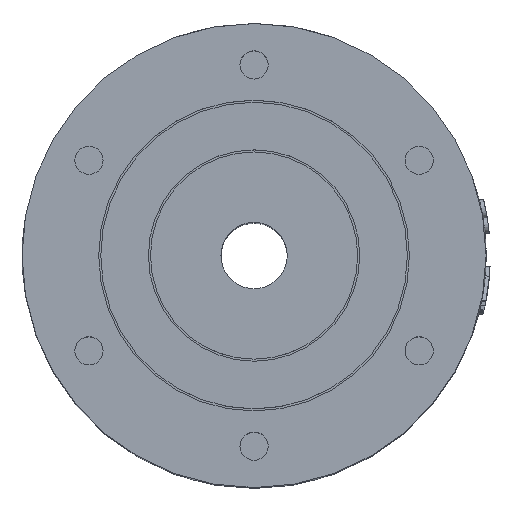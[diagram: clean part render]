
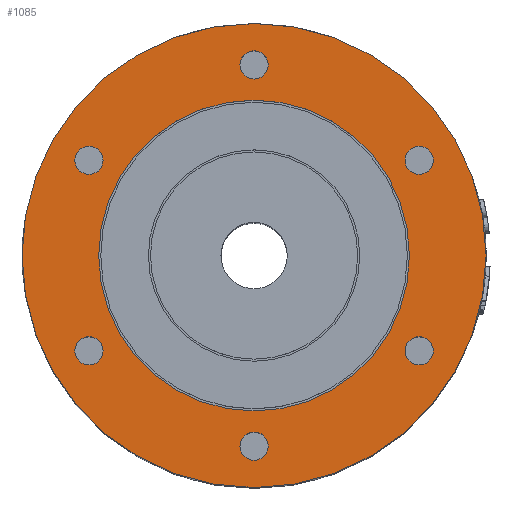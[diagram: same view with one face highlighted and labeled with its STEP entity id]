
A CAD part, top view. The second image highlights one B-rep face of the part: STEP entity #1085.
In plain terms, the highlighted planar face has unit normal (0, 0, 1).
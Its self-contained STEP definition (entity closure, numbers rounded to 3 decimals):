
#164=FACE_BOUND('',#2106,.T.);
#165=FACE_BOUND('',#2107,.T.);
#166=FACE_BOUND('',#2108,.T.);
#167=FACE_BOUND('',#2109,.T.);
#168=FACE_BOUND('',#2110,.T.);
#169=FACE_BOUND('',#2111,.T.);
#170=FACE_BOUND('',#2112,.T.);
#171=FACE_BOUND('',#2113,.T.);
#354=CIRCLE('',#6551,28.);
#358=CIRCLE('',#6558,18.75);
#359=CIRCLE('',#6559,1.7);
#360=CIRCLE('',#6560,1.7);
#361=CIRCLE('',#6561,1.7);
#362=CIRCLE('',#6562,1.7);
#363=CIRCLE('',#6563,1.7);
#364=CIRCLE('',#6564,1.7);
#672=PLANE('',#6565);
#1085=ADVANCED_FACE('',(#164,#165,#166,#167,#168,#169,#170,#171),#672,.F.);
#2106=EDGE_LOOP('',(#3580));
#2107=EDGE_LOOP('',(#3581));
#2108=EDGE_LOOP('',(#3582));
#2109=EDGE_LOOP('',(#3583));
#2110=EDGE_LOOP('',(#3584));
#2111=EDGE_LOOP('',(#3585));
#2112=EDGE_LOOP('',(#3586));
#2113=EDGE_LOOP('',(#3587));
#3580=ORIENTED_EDGE('',*,*,#5469,.T.);
#3581=ORIENTED_EDGE('',*,*,#5470,.T.);
#3582=ORIENTED_EDGE('',*,*,#5471,.T.);
#3583=ORIENTED_EDGE('',*,*,#5472,.T.);
#3584=ORIENTED_EDGE('',*,*,#5473,.T.);
#3585=ORIENTED_EDGE('',*,*,#5474,.T.);
#3586=ORIENTED_EDGE('',*,*,#5475,.T.);
#3587=ORIENTED_EDGE('',*,*,#5465,.F.);
#4599=VERTEX_POINT('',#26861);
#4603=VERTEX_POINT('',#26872);
#4604=VERTEX_POINT('',#26874);
#4605=VERTEX_POINT('',#26876);
#4606=VERTEX_POINT('',#26878);
#4607=VERTEX_POINT('',#26880);
#4608=VERTEX_POINT('',#26882);
#4609=VERTEX_POINT('',#26884);
#5465=EDGE_CURVE('',#4599,#4599,#354,.T.);
#5469=EDGE_CURVE('',#4603,#4603,#358,.T.);
#5470=EDGE_CURVE('',#4604,#4604,#359,.T.);
#5471=EDGE_CURVE('',#4605,#4605,#360,.T.);
#5472=EDGE_CURVE('',#4606,#4606,#361,.T.);
#5473=EDGE_CURVE('',#4607,#4607,#362,.T.);
#5474=EDGE_CURVE('',#4608,#4608,#363,.T.);
#5475=EDGE_CURVE('',#4609,#4609,#364,.T.);
#6551=AXIS2_PLACEMENT_3D('',#26860,#7484,#7485);
#6558=AXIS2_PLACEMENT_3D('',#26871,#7498,#7499);
#6559=AXIS2_PLACEMENT_3D('',#26873,#7500,#7501);
#6560=AXIS2_PLACEMENT_3D('',#26875,#7502,#7503);
#6561=AXIS2_PLACEMENT_3D('',#26877,#7504,#7505);
#6562=AXIS2_PLACEMENT_3D('',#26879,#7506,#7507);
#6563=AXIS2_PLACEMENT_3D('',#26881,#7508,#7509);
#6564=AXIS2_PLACEMENT_3D('',#26883,#7510,#7511);
#6565=AXIS2_PLACEMENT_3D('',#26885,#7512,#7513);
#7484=DIRECTION('',(0.,0.,-1.));
#7485=DIRECTION('',(-1.,0.,0.));
#7498=DIRECTION('',(0.,0.,-1.));
#7499=DIRECTION('',(-1.,0.,0.));
#7500=DIRECTION('',(0.,0.,-1.));
#7501=DIRECTION('',(-1.,0.,0.));
#7502=DIRECTION('',(0.,0.,-1.));
#7503=DIRECTION('',(-1.,0.,0.));
#7504=DIRECTION('',(0.,0.,-1.));
#7505=DIRECTION('',(-1.,0.,0.));
#7506=DIRECTION('',(0.,0.,-1.));
#7507=DIRECTION('',(-1.,0.,0.));
#7508=DIRECTION('',(0.,0.,-1.));
#7509=DIRECTION('',(-1.,0.,0.));
#7510=DIRECTION('',(0.,0.,-1.));
#7511=DIRECTION('',(-1.,0.,0.));
#7512=DIRECTION('',(0.,0.,-1.));
#7513=DIRECTION('',(1.,0.,0.));
#26860=CARTESIAN_POINT('',(0.,0.,62.));
#26861=CARTESIAN_POINT('',(-28.,0.,62.));
#26871=CARTESIAN_POINT('',(0.,0.,62.));
#26872=CARTESIAN_POINT('',(-18.75,0.,62.));
#26873=CARTESIAN_POINT('',(-19.919,-11.5,62.));
#26874=CARTESIAN_POINT('',(-21.619,-11.5,62.));
#26875=CARTESIAN_POINT('',(0.,23.,62.));
#26876=CARTESIAN_POINT('',(-1.7,23.,62.));
#26877=CARTESIAN_POINT('',(0.,-23.,62.));
#26878=CARTESIAN_POINT('',(-1.7,-23.,62.));
#26879=CARTESIAN_POINT('',(19.919,-11.5,62.));
#26880=CARTESIAN_POINT('',(18.219,-11.5,62.));
#26881=CARTESIAN_POINT('',(-19.919,11.5,62.));
#26882=CARTESIAN_POINT('',(-21.619,11.5,62.));
#26883=CARTESIAN_POINT('',(19.919,11.5,62.));
#26884=CARTESIAN_POINT('',(18.219,11.5,62.));
#26885=CARTESIAN_POINT('',(0.,0.,62.));
